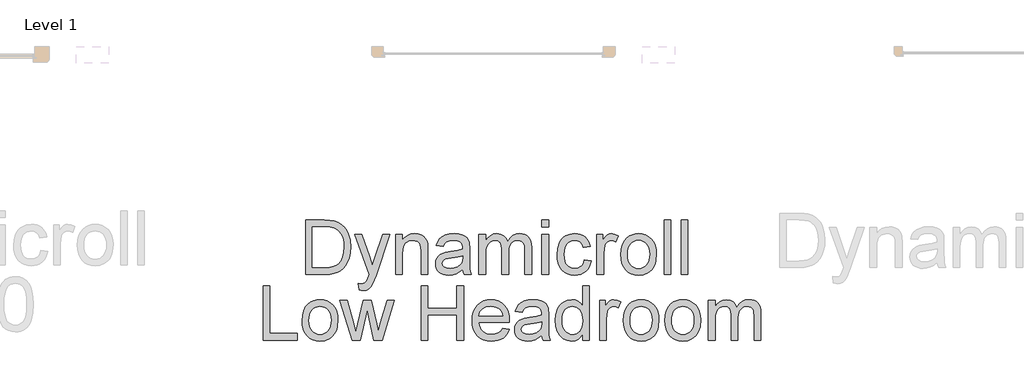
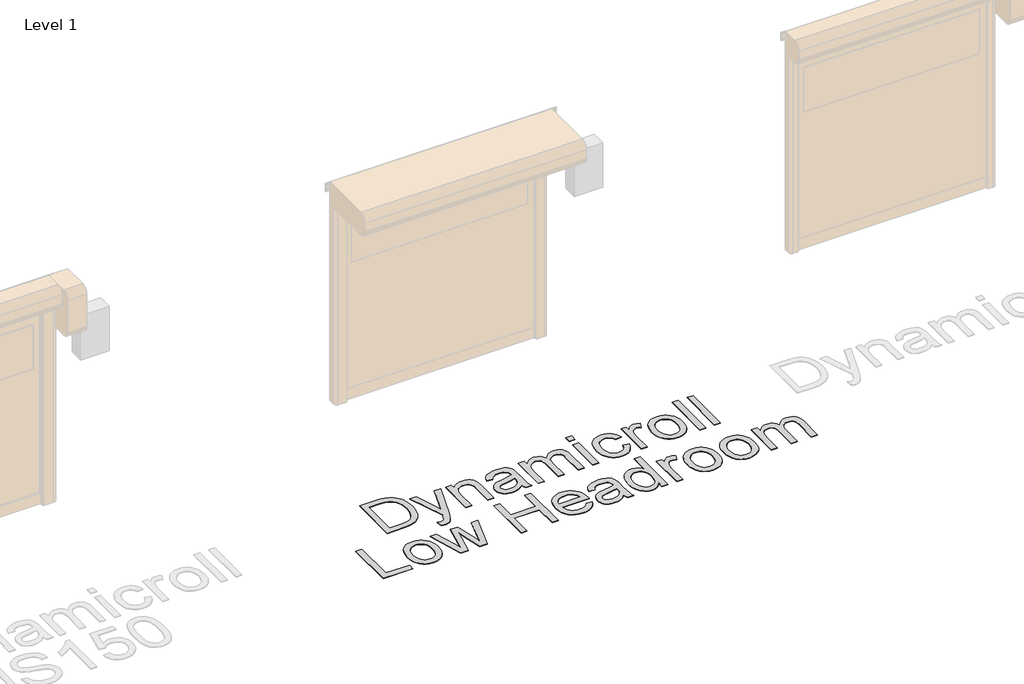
# One storey, part 10 of 17: 1 proxy.
"""IFC4 building model written with IfcOpenShell, lengths in millimetres."""

import ifcopenshell
import ifcopenshell.guid

model = None  # the IFC model being written
_history = None  # IfcOwnerHistory: only IFC2X3 demands one
_inside = {}  # id of a spatial element -> (the spatial element, [elements in it])
_under = {}  # id of a project, library or spatial element -> (it, [spatial elements below it])
_declared = {}  # id of a project -> (the project, [libraries it declares])
_typed = {}  # id of a type object -> (the type object, [elements of that type])
_made_of = {}  # id of a material, layer set ... -> (it, [elements and type objects made of it])


def new_model(schema):
    """Start an empty IFC model of exactly this schema.

    Asked for "IFC4X3", IfcOpenShell would pick the latest addendum, in which some entities
    have other attributes; the version numbers below select the first issue.
    IFC2X3 requires an IfcOwnerHistory on every rooted entity: one is made here for all.
    """
    global model, _history
    if schema == "IFC4X3":
        model = ifcopenshell.file(schema_version=(4, 3, 0, 0))
    else:
        model = ifcopenshell.file(schema=schema)
    _inside.clear()
    _under.clear()
    _declared.clear()
    _typed.clear()
    _made_of.clear()
    _history = None
    if model.schema == "IFC2X3":
        org = make("IfcOrganization", Name="unknown")
        user = make(
            "IfcPersonAndOrganization",
            ThePerson=make("IfcPerson", FamilyName="unknown"),
            TheOrganization=org,
        )
        app = make(
            "IfcApplication",
            ApplicationDeveloper=org,
            Version="unknown",
            ApplicationFullName="unknown",
            ApplicationIdentifier="unknown",
        )
        _history = make(
            "IfcOwnerHistory",
            OwningUser=user,
            OwningApplication=app,
            ChangeAction="ADDED",
            CreationDate=0,
        )
    return model


def make(cls, **values):
    """One entity of the class cls with the attributes given. An attribute that is None is left unset."""
    return model.create_entity(
        cls, **{name: value for name, value in values.items() if value is not None}
    )


def rooted(cls, **values):
    """An entity with a GlobalId (a new one), such as an element, a storey or a relation."""
    return make(cls, GlobalId=ifcopenshell.guid.new(), OwnerHistory=_history, **values)


def si_unit(unit_type, name, prefix=None):
    """IfcSIUnit, for example si_unit("LENGTHUNIT", "METRE", prefix="MILLI")."""
    return make("IfcSIUnit", UnitType=unit_type, Prefix=prefix, Name=name)


def assignment(units):
    """IfcUnitAssignment: the units of a project."""
    return None if units is None else make("IfcUnitAssignment", Units=units)


def point(xyz):
    """IfcCartesianPoint."""
    return None if xyz is None else make("IfcCartesianPoint", Coordinates=xyz)


def direction(xyz):
    """IfcDirection."""
    return None if xyz is None else make("IfcDirection", DirectionRatios=xyz)


def frame(location, z_axis=None, x_axis=None):
    """IfcAxis2Placement3D, a coordinate frame: its origin and axes. An axis left out is left unset."""
    return make(
        "IfcAxis2Placement3D",
        Location=point(location),
        Axis=direction(z_axis),
        RefDirection=direction(x_axis),
    )


def origin():
    """The frame at (0, 0, 0) with its axes left unset."""
    return frame((0.0, 0.0, 0.0))


def origin_with_axes():
    """The frame at (0, 0, 0) with the z axis (0, 0, 1) and the x axis (1, 0, 0) written out."""
    return frame((0.0, 0.0, 0.0), z_axis=(0.0, 0.0, 1.0), x_axis=(1.0, 0.0, 0.0))


def place(relative_to, where):
    """IfcLocalPlacement: puts the frame where relative to a parent placement (None: the world)."""
    return make(
        "IfcLocalPlacement", PlacementRelTo=relative_to, RelativePlacement=where
    )


def context(
    kind, dimensions, precision=None, world=None, true_north=None, identifier=None
):
    """IfcGeometricRepresentationContext, for example the 3D "Model" context."""
    return make(
        "IfcGeometricRepresentationContext",
        ContextIdentifier=identifier,
        ContextType=kind,
        CoordinateSpaceDimension=dimensions,
        Precision=precision,
        WorldCoordinateSystem=world,
        TrueNorth=true_north,
    )


def project(units=None, contexts=None):
    """IfcProject with its units and contexts."""
    return rooted(
        "IfcProject",
        Name="project",
        RepresentationContexts=contexts,
        UnitsInContext=assignment(units),
    )


def spatial(cls, under=None, at=None, **own):
    """A site, building, storey or space (cls), placed at a placement, below another one or the project."""
    s = rooted(cls, ObjectPlacement=at, **own)
    if under is not None:
        _under.setdefault(under.id(), (under, []))[1].append(s)
    return s


def polyline(points):
    """IfcPolyline through the points."""
    return make("IfcPolyline", Points=[point(p) for p in points])


def outline(outer, holes=None, kind="AREA"):
    """IfcArbitraryClosedProfileDef: a profile drawn as a closed curve; with holes, ...WithVoids."""
    if holes is None:
        return make("IfcArbitraryClosedProfileDef", ProfileType=kind, OuterCurve=outer)
    return make(
        "IfcArbitraryProfileDefWithVoids",
        ProfileType=kind,
        OuterCurve=outer,
        InnerCurves=holes,
    )


def extrude(swept, where, along, depth):
    """IfcExtrudedAreaSolid: the profile swept, set in the frame where, extruded along a direction by depth."""
    return make(
        "IfcExtrudedAreaSolid",
        SweptArea=swept,
        Position=where,
        ExtrudedDirection=direction(along),
        Depth=depth,
    )


def shape(context_of_items, identifier, shape_type, items):
    """IfcShapeRepresentation: the items that make up one representation, for example the "Body"."""
    return make(
        "IfcShapeRepresentation",
        ContextOfItems=context_of_items,
        RepresentationIdentifier=identifier,
        RepresentationType=shape_type,
        Items=items,
    )


def made_of(thing, what):
    """Note that an element or type object is made of a material, layer set ...; save() writes the relation."""
    if what is not None:
        _made_of.setdefault(what.id(), (what, []))[1].append(thing)
    return thing


def element(
    cls,
    number,
    at=None,
    inside=None,
    cuts=None,
    type_object=None,
    material=None,
    context=None,
    identifier="Body",
    shape_type=None,
    held_by="IfcProductDefinitionShape",
    body=None,
    shapes=None,
    **own,
):
    """One element of the class cls, such as IfcWall. Its Tag is "e" and its number.

    at: its placement. inside: the storey or other place that contains it. cuts: it is an
    opening in that element (IfcRelVoidsElement). A single representation is given by context,
    identifier, shape_type and body (its items); several are given by shapes. held_by: the class
    of the entity that holds the representations. save() writes the other relations.
    """
    e = rooted(cls, Tag="e%d" % number, ObjectPlacement=at, **own)
    if body is not None:
        shapes = [shape(context, identifier, shape_type, body)]
    if shapes is not None:
        e.Representation = make(held_by, Representations=shapes)
    if inside is not None:
        _inside.setdefault(inside.id(), (inside, []))[1].append(e)
    if cuts is not None:
        rooted(
            "IfcRelVoidsElement", RelatingBuildingElement=cuts, RelatedOpeningElement=e
        )
    if type_object is not None:
        _typed.setdefault(type_object.id(), (type_object, []))[1].append(e)
    return made_of(e, material)


def aggregate(whole, parts):
    """IfcRelAggregates: a whole, such as a stair, and the parts it consists of."""
    return rooted("IfcRelAggregates", RelatingObject=whole, RelatedObjects=parts)


def save(model, path):
    """Write the relations noted so far, then the file.

    IfcRelAggregates (storeys below a building ...), IfcRelContainedInSpatialStructure (elements
    in a storey), IfcRelDefinesByType, IfcRelAssociatesMaterial and IfcRelDeclares: one each for
    every whole, place, type object, material and project.
    """
    for whole, parts in _under.values():
        aggregate(whole, parts)
    for where, things in _inside.values():
        rooted(
            "IfcRelContainedInSpatialStructure",
            RelatedElements=things,
            RelatingStructure=where,
        )
    for kind, things in _typed.values():
        rooted("IfcRelDefinesByType", RelatedObjects=things, RelatingType=kind)
    for what, things in _made_of.values():
        rooted("IfcRelAssociatesMaterial", RelatedObjects=things, RelatingMaterial=what)
    for by, libraries in _declared.values():
        rooted("IfcRelDeclares", RelatingContext=by, RelatedDefinitions=libraries)
    model.write(path)


model = new_model("IFC4")

# Units and contexts
model_context = context("Model", 3, world=origin())
ifc_project = project(units=[si_unit("LENGTHUNIT", "METRE", prefix="MILLI")], contexts=[model_context])

# Site, building, storey
site = spatial("IfcSite", under=ifc_project)
building = spatial("IfcBuilding", under=site)
storey = spatial("IfcBuildingStorey", under=building, Name="Level 1", Elevation=0.0)

# Proxy
placement = place(None, origin())
element("IfcBuildingElementProxy", 1, Name="500mm", ObjectType="500mm", at=placement, inside=storey, context=model_context, shape_type="SweptSolid", body=[
    extrude(outline(polyline([(15153.8603048, 19116.7358376), (15153.8603048, 19619.0173884), (15327.1327245, 19619.0173884), (15378.9121153, 19617.2086352), (15416.773304, 19611.7823758), (15456.8111278, 19597.8335168), (15490.5949577, 19575.8525676), (15509.2113195, 19557.8876635), (15525.3291494, 19537.5928401), (15538.9484474, 19514.9680974), (15550.0692136, 19490.0134354), (15564.8764639, 19434.0340585), (15569.812214, 19370.5744143), (15566.4706192, 19316.6643736), (15556.4458348, 19269.2229246), (15541.178732, 19228.8325473), (15522.1101819, 19196.0757213), (15500.1598896, 19170.2166827), (15476.2475599, 19150.5196675), (15448.794366, 19135.9116866), (15416.221481, 19125.3197509), (15378.4675912, 19118.8818159), (15335.4713831, 19116.7358376), (15153.8603048, 19116.7358376)]), holes=[polyline([(15216.6454986, 19179.5210315), (15327.7458612, 19179.5210315), (15373.7004537, 19181.7896371), (15408.5572728, 19188.595454), (15434.8608354, 19199.5399434), (15455.1556588, 19214.2245664), (15476.9679955, 19241.4018488), (15493.3540727, 19276.5805645), (15503.6087833, 19319.9139979), (15507.0270201, 19371.555433), (15505.3523906, 19408.0064073), (15500.3285022, 19439.9814841), (15491.9553547, 19467.4806632), (15480.2329482, 19490.5039447), (15466.1116445, 19509.5724948), (15450.5418055, 19525.2074796), (15433.5234311, 19537.4088991), (15415.0565214, 19546.1767533), (15378.9427722, 19553.7183342), (15326.0290785, 19556.2321945), (15216.6454986, 19556.2321945), (15216.6454986, 19179.5210315)])]), origin_with_axes(), (0.0, 0.0, 1.0), 5.0),
    extrude(outline(polyline([(15648.2937063, 18975.4691515), (15640.4455571, 19035.924426), (15672.3286633, 19030.4061961), (15689.0979509, 19032.1383072), (15702.1271049, 19037.3346404), (15712.2745166, 19045.6273137), (15720.3985773, 19056.6484451), (15737.5664038, 19102.8789492), (15742.4714971, 19118.0847383), (15609.0529601, 19485.5988515), (15675.2717193, 19485.5988515), (15746.0276897, 19280.8112075), (15770.6757834, 19198.8961499), (15795.323877, 19271.2462756), (15868.0418847, 19485.5988515), (15933.7701346, 19485.5988515), (15805.3793182, 19107.9066698), (15772.024684, 19025.9916122), (15754.9488281, 18999.8413337), (15735.6043665, 18981.7231454), (15713.1329079, 18971.1465381), (15686.6760611, 18967.6210023), (15668.4965592, 18969.5830396), (15648.2937063, 18975.4691515)])), origin_with_axes(), (0.0, 0.0, 1.0), 5.0),
    extrude(outline(polyline([(15985.7641232, 19116.7358376), (15985.7641232, 19485.5988515), (16048.549317, 19485.5988515), (16048.549317, 19434.0953721), (16070.3616537, 19460.0617096), (16096.5579174, 19478.6090936), (16127.1381083, 19489.7375239), (16162.1022262, 19493.4470007), (16193.0502991, 19490.4579595), (16221.3925411, 19481.4908359), (16245.0289593, 19467.6646042), (16261.8595606, 19450.0982389), (16273.2792309, 19428.8377253), (16280.682856, 19403.9290485), (16283.993794, 19343.2285193), (16283.993794, 19116.7358376), (16221.2086001, 19116.7358376), (16221.2086001, 19334.7672335), (16219.399847, 19367.2328195), (16213.9735875, 19390.3174147), (16203.9641316, 19406.8567761), (16188.4057889, 19419.6866607), (16168.4635191, 19427.9180203), (16145.3022818, 19430.6618069), (16126.2375638, 19429.121301), (16108.5294107, 19424.4997834), (16092.1778224, 19416.7972542), (16077.182799, 19406.0137132), (16064.6556506, 19390.9228872), (16055.7076875, 19370.2985028), (16050.3389097, 19344.1405601), (16048.549317, 19312.4490591), (16048.549317, 19116.7358376), (15985.7641232, 19116.7358376)])), origin_with_axes(), (0.0, 0.0, 1.0), 5.0),
    extrude(outline(polyline([(16605.7679124, 19163.824733), (16575.7702014, 19138.1036502), (16544.8834422, 19121.2730489), (16512.4025277, 19111.9840285), (16477.6223508, 19108.8876884), (16449.6671512, 19110.750091), (16425.1531812, 19116.3372988), (16404.0804407, 19125.6493118), (16386.4489296, 19138.68613), (16372.5268954, 19154.6200189), (16362.5825852, 19172.6232441), (16356.6159991, 19192.6958054), (16354.627137, 19214.837703), (16357.6315067, 19240.8653542), (16366.6446155, 19264.5017724), (16380.5474893, 19284.7352821), (16398.2211535, 19300.5542079), (16418.9911578, 19312.5103727), (16442.1830519, 19321.1555996), (16496.5069598, 19330.5979042), (16560.702368, 19340.530718), (16605.4000304, 19352.1803146), (16605.7679124, 19366.1598304), (16601.445299, 19394.1801757), (16588.4774586, 19412.5129618), (16575.4023194, 19420.4530815), (16559.4760947, 19426.1245956), (16519.0703889, 19430.6618069), (16481.6690527, 19427.6421088), (16455.549431, 19418.5830147), (16437.7378111, 19401.8290555), (16425.2604801, 19375.7247622), (16362.4752863, 19383.5729115), (16373.3737904, 19417.9085644), (16389.6372402, 19444.8865773), (16412.7831491, 19465.5186259), (16444.3290302, 19480.8163855), (16482.9106544, 19490.2893469), (16527.1637928, 19493.4470007), (16569.608178, 19490.6572289), (16603.2540521, 19482.2879135), (16628.6225814, 19469.7032836), (16646.2349319, 19454.2675682), (16657.9151852, 19435.1836897), (16665.487423, 19411.6545704), (16668.5531063, 19356.7175258), (16668.5531063, 19278.6039155), (16671.7414169, 19169.526904), (16676.4625691, 19142.5642194), (16684.2494047, 19116.7358376), (16621.4642109, 19116.7358376), (16611.4087697, 19138.5635027), (16605.7679124, 19163.824733)]), holes=[polyline([(16605.7679124, 19289.3951207), (16563.5841103, 19278.9411407), (16504.4777364, 19270.1426296), (16450.4603968, 19259.9645611), (16436.4042389, 19253.00546), (16425.9962441, 19243.4098713), (16419.5583092, 19231.913559), (16417.4123309, 19219.252287), (16422.0874979, 19200.5822757), (16436.112999, 19185.2845161), (16459.1822657, 19175.0757907), (16490.9887299, 19171.6728823), (16524.7112461, 19175.4283443), (16554.5096877, 19186.6947304), (16578.6672721, 19203.2954054), (16595.4672165, 19223.0537342), (16602.9168269, 19243.4098713), (16605.4000304, 19271.6141576), (16605.7679124, 19289.3951207)])]), origin_with_axes(), (0.0, 0.0, 1.0), 5.0),
    extrude(outline(polyline([(16754.8827478, 19116.7358376), (16754.8827478, 19485.5988515), (16817.6679416, 19485.5988515), (16817.6679416, 19424.8983223), (16836.5525507, 19452.7807118), (16860.8327624, 19474.6237053), (16889.6808422, 19488.7411768), (16922.2690556, 19493.4470007), (16957.1871883, 19488.6492064), (16985.1768768, 19474.2558233), (17006.0848368, 19451.2172133), (17019.7577843, 19420.4837383), (17042.6431101, 19452.4051656), (17068.7474033, 19475.2061851), (17098.070664, 19488.8867968), (17130.6128922, 19493.4470007), (17155.7476631, 19491.5501092), (17177.8090865, 19485.8594346), (17196.7971624, 19476.3749769), (17212.7118908, 19463.0967361), (17225.2926886, 19445.8714281), (17234.2789728, 19424.5457687), (17239.6707432, 19399.1197579), (17241.4680001, 19369.5933957), (17241.4680001, 19116.7358376), (17178.6828062, 19116.7358376), (17178.6828062, 19342.6153827), (17177.2266067, 19373.9313375), (17172.858008, 19395.038567), (17164.6726336, 19409.4932637), (17151.7661069, 19420.8516203), (17135.1654319, 19428.2092602), (17115.8976124, 19430.6618069), (17098.105153, 19429.0906442), (17081.8838562, 19424.3771561), (17067.2337222, 19416.5213427), (17054.1547509, 19405.5232039), (17043.3980346, 19391.0608429), (17035.7146659, 19372.8123631), (17031.1046446, 19350.7777645), (17029.5679709, 19324.9570469), (17029.5679709, 19116.7358376), (16966.782777, 19116.7358376), (16966.782777, 19349.6051406), (16963.1499423, 19385.1057531), (16952.2514382, 19410.4282971), (16943.8246412, 19419.2804576), (16933.0755892, 19425.6034294), (16904.6107198, 19430.6618069), (16880.4224786, 19427.2895552), (16858.1349611, 19417.1728004), (16839.7408613, 19400.5567969), (16827.2328735, 19377.6867996), (16820.0591746, 19345.9569775), (16817.6679416, 19302.7614999), (16817.6679416, 19116.7358376), (16754.8827478, 19116.7358376)])), origin_with_axes(), (0.0, 0.0, 1.0), 5.0),
    extrude(outline(polyline([(17335.6457908, 19556.2321945), (17335.6457908, 19619.0173884), (17398.4309847, 19619.0173884), (17398.4309847, 19556.2321945), (17335.6457908, 19556.2321945)])), origin_with_axes(), (0.0, 0.0, 1.0), 5.0),
    extrude(outline(polyline([(17335.6457908, 19116.7358376), (17335.6457908, 19485.5988515), (17398.4309847, 19485.5988515), (17398.4309847, 19116.7358376), (17335.6457908, 19116.7358376)])), origin_with_axes(), (0.0, 0.0, 1.0), 5.0),
    extrude(outline(polyline([(17728.0532524, 19250.1543746), (17790.8384462, 19242.3062253), (17784.0096367, 19212.6802284), (17773.3333946, 19186.4648041), (17758.80972, 19163.6599525), (17740.4386129, 19144.2656736), (17718.9941582, 19128.7878051), (17695.2504411, 19117.7321847), (17669.2074615, 19111.0988125), (17640.8652195, 19108.8876884), (17605.6520148, 19111.9725322), (17574.079309, 19121.2270637), (17546.1471021, 19136.6512827), (17521.8553941, 19158.2451894), (17502.1928678, 19185.6025807), (17488.1482063, 19218.3172536), (17479.7214093, 19256.389208), (17476.912477, 19299.8184439), (17481.7102713, 19355.6905219), (17496.1036544, 19404.1129895), (17506.9561733, 19425.0631027), (17520.3225524, 19443.2157799), (17536.2027919, 19458.5710211), (17554.5968916, 19471.1288263), (17595.6004057, 19487.8674571), (17640.0068282, 19493.4470007), (17667.862393, 19491.5309486), (17693.0584776, 19485.7827925), (17715.5950819, 19476.2025322), (17735.4722059, 19462.7901678), (17752.3526246, 19445.8522676), (17765.8991126, 19425.6953999), (17776.1116701, 19402.3195648), (17782.990297, 19375.7247622), (17720.2051031, 19367.876613), (17708.8160897, 19395.2684932), (17691.0811118, 19414.9041947), (17667.9811882, 19426.7224038), (17640.4973375, 19430.6618069), (17619.1640139, 19428.7227622), (17599.9230191, 19422.9056281), (17582.7743532, 19413.2104047), (17567.7180161, 19399.6370919), (17555.4591151, 19381.8714573), (17546.7027572, 19359.5992681), (17541.4489424, 19332.8205246), (17539.6976708, 19301.5352266), (17541.4106214, 19269.7785797), (17546.549473, 19242.6894357), (17555.1142257, 19220.2677946), (17567.1048795, 19202.5136562), (17581.8623124, 19189.0208176), (17598.7274026, 19179.3830757), (17617.7001501, 19173.6004306), (17638.7805549, 19171.6728823), (17671.2921262, 19176.486005), (17697.9482424, 19190.9253733), (17708.7279513, 19201.8468701), (17717.3386893, 19215.3588692), (17728.0532524, 19250.1543746)])), origin_with_axes(), (0.0, 0.0, 1.0), 5.0),
    extrude(outline(polyline([(17845.7754908, 19116.7358376), (17845.7754908, 19485.5988515), (17900.7125354, 19485.5988515), (17900.7125354, 19431.0296889), (17921.0073588, 19462.6675404), (17939.7080269, 19481.3068949), (17958.4700087, 19490.4119742), (17978.9487731, 19493.4470007), (18010.2187427, 19488.6032211), (18041.9792216, 19474.0718823), (18021.0099479, 19417.785937), (17998.9370281, 19427.4428394), (17976.8641084, 19430.6618069), (17958.1174551, 19427.5654667), (17941.3634959, 19418.2764464), (17927.8285042, 19403.4998529), (17918.7387532, 19383.9407935), (17911.1052018, 19348.8693766), (17908.5606847, 19310.6096491), (17908.5606847, 19116.7358376), (17845.7754908, 19116.7358376)])), origin_with_axes(), (0.0, 0.0, 1.0), 5.0),
    extrude(outline(polyline([(18065.5236693, 19301.1673446), (18068.9189135, 19348.9383545), (18079.1046463, 19390.1028169), (18096.0808675, 19424.6607318), (18119.8475772, 19452.6120992), (18143.7752353, 19470.4773686), (18170.1860969, 19483.2382753), (18199.0801619, 19490.8948194), (18230.4574304, 19493.4470007), (18265.0958195, 19490.3391643), (18296.4156065, 19481.015655), (18324.4167913, 19465.4764728), (18349.0993739, 19443.7216177), (18369.2447452, 19416.4868537), (18383.6342962, 19384.5079449), (18392.2680268, 19347.7848911), (18395.1459369, 19306.3176925), (18390.0569027, 19242.8887052), (18383.6956098, 19216.8533898), (18374.7897999, 19194.6041933), (18363.4506038, 19175.3861911), (18349.7891526, 19158.4444588), (18333.8054464, 19143.7789964), (18315.499485, 19131.3898038), (18274.7718824, 19114.5132173), (18230.4574304, 19108.8876884), (18195.3132036, 19111.9840285), (18163.7021767, 19121.2730489), (18135.6243499, 19136.7547495), (18111.079723, 19158.4291304), (18091.1489495, 19185.9283096), (18076.9126827, 19218.884405), (18068.3709226, 19257.2974166), (18065.5236693, 19301.1673446)]), holes=[polyline([(18128.3088631, 19301.2899719), (18130.1252805, 19270.8362405), (18135.5745325, 19244.4675321), (18144.6566193, 19222.1838466), (18157.3715407, 19203.9851842), (18172.8379129, 19189.8485521), (18190.174352, 19179.7509577), (18209.3808578, 19173.6924011), (18230.4574304, 19171.6728823), (18251.4267042, 19173.7038974), (18270.5565679, 19179.796943), (18287.8470217, 19189.9520189), (18303.2980655, 19204.1691252), (18316.0129869, 19222.5478965), (18325.0950737, 19245.1879676), (18330.5443258, 19272.0893385), (18332.3607431, 19303.2520092), (18330.5328294, 19332.7400504), (18325.0490885, 19358.4189801), (18315.9095201, 19380.2887983), (18303.1141245, 19398.349505), (18287.6055991, 19412.486137), (18270.3266417, 19422.5837314), (18251.2772521, 19428.642288), (18230.4574304, 19430.6618069), (18209.3808578, 19428.6499522), (18190.174352, 19422.6143882), (18172.8379129, 19412.5551149), (18157.3715407, 19398.4721323), (18144.6566193, 19380.3271193), (18135.5745325, 19358.0817549), (18130.1252805, 19331.7360391), (18128.3088631, 19301.2899719)])]), origin_with_axes(), (0.0, 0.0, 1.0), 5.0),
    extrude(outline(polyline([(18465.77928, 19116.7358376), (18465.77928, 19619.0173884), (18528.5644739, 19619.0173884), (18528.5644739, 19116.7358376), (18465.77928, 19116.7358376)])), origin_with_axes(), (0.0, 0.0, 1.0), 5.0),
    extrude(outline(polyline([(18622.7422646, 19116.7358376), (18622.7422646, 19619.0173884), (18685.5274585, 19619.0173884), (18685.5274585, 19116.7358376), (18622.7422646, 19116.7358376)])), origin_with_axes(), (0.0, 0.0, 1.0), 5.0),
    extrude(outline(polyline([(14761.4528433, 18506.8617484), (14761.4528433, 19009.1432992), (14824.2380371, 19009.1432992), (14824.2380371, 18569.6469423), (15075.3788125, 18569.6469423), (15075.3788125, 18506.8617484), (14761.4528433, 18506.8617484)])), origin_with_axes(), (0.0, 0.0, 1.0), 5.0),
    extrude(outline(polyline([(15122.4677079, 18691.2932553), (15125.8629521, 18739.0642652), (15136.0486848, 18780.2287277), (15153.0249061, 18814.7866426), (15176.7916158, 18842.73801), (15200.7192739, 18860.6032794), (15227.1301355, 18873.3641861), (15256.0242005, 18881.0207301), (15287.401469, 18883.5729115), (15322.0398581, 18880.465075), (15353.3596451, 18871.1415657), (15381.3608299, 18855.6023835), (15406.0434125, 18833.8475285), (15426.1887838, 18806.6127645), (15440.5783348, 18774.6338557), (15449.2120653, 18737.9108019), (15452.0899755, 18696.4436033), (15447.0009413, 18633.0146159), (15440.6396484, 18606.9793006), (15431.7338385, 18584.7301041), (15420.3946424, 18565.5121019), (15406.7331912, 18548.5703696), (15390.7494849, 18533.9049072), (15372.4435236, 18521.5157146), (15331.715921, 18504.639128), (15287.401469, 18499.0135992), (15252.2572422, 18502.1099393), (15220.6462153, 18511.3989597), (15192.5683885, 18526.8806603), (15168.0237616, 18548.5550412), (15148.0929881, 18576.0542203), (15133.8567213, 18609.0103157), (15125.3149612, 18647.4233274), (15122.4677079, 18691.2932553)]), holes=[polyline([(15185.2529017, 18691.4158827), (15187.0693191, 18660.9621513), (15192.5185711, 18634.5934428), (15201.6006579, 18612.3097574), (15214.3155793, 18594.1110949), (15229.7819515, 18579.9744629), (15247.1183906, 18569.8768685), (15266.3248964, 18563.8183119), (15287.401469, 18561.798793), (15308.3707428, 18563.8298082), (15327.5006065, 18569.9228538), (15344.7910603, 18580.0779297), (15360.2421041, 18594.2950359), (15372.9570255, 18612.6738073), (15382.0391123, 18635.3138784), (15387.4883643, 18662.2152493), (15389.3047817, 18693.37792), (15387.476868, 18722.8659611), (15381.993127, 18748.5448908), (15372.8535587, 18770.414709), (15360.0581631, 18788.4754157), (15344.5496377, 18802.6120478), (15327.2706803, 18812.7096422), (15308.2212907, 18818.7681988), (15287.401469, 18820.7877176), (15266.3248964, 18818.775863), (15247.1183906, 18812.740299), (15229.7819515, 18802.6810257), (15214.3155793, 18788.5980431), (15201.6006579, 18770.4530301), (15192.5185711, 18748.2076657), (15187.0693191, 18721.8619499), (15185.2529017, 18691.4158827)])]), origin_with_axes(), (0.0, 0.0, 1.0), 5.0),
    extrude(outline(polyline([(15583.9143571, 18506.8617484), (15471.7103486, 18875.7247622), (15536.9480891, 18875.7247622), (15600.5916743, 18660.5137951), (15619.5989107, 18583.6264581), (15635.1725818, 18657.6933664), (15685.8176698, 18875.7247622), (15760.6203422, 18875.7247622), (15811.0201755, 18658.3065031), (15824.877064, 18591.2293526), (15844.7426917, 18661.9853231), (15908.5089042, 18875.7247622), (15973.9918994, 18875.7247622), (15860.9294995, 18506.8617484), (15785.0231812, 18506.8617484), (15736.8306398, 18723.1763616), (15722.851124, 18790.621394), (15660.6790668, 18506.8617484), (15583.9143571, 18506.8617484)])), origin_with_axes(), (0.0, 0.0, 1.0), 5.0),
    extrude(outline(polyline([(16221.2086001, 18506.8617484), (16221.2086001, 19009.1432992), (16283.993794, 19009.1432992), (16283.993794, 18805.0914192), (16550.8308678, 18805.0914192), (16550.8308678, 19009.1432992), (16613.6160616, 19009.1432992), (16613.6160616, 18506.8617484), (16550.8308678, 18506.8617484), (16550.8308678, 18742.3062253), (16283.993794, 18742.3062253), (16283.993794, 18506.8617484), (16221.2086001, 18506.8617484)])), origin_with_axes(), (0.0, 0.0, 1.0), 5.0),
    extrude(outline(polyline([(16973.8951622, 18616.7358376), (17035.4540828, 18608.8876884), (17026.0156103, 18584.2319305), (17013.2738641, 18562.5039002), (16997.2288442, 18543.7035974), (16977.8805505, 18527.8310221), (16955.4282525, 18515.2233996), (16930.0712196, 18506.2179549), (16901.8094517, 18500.8146881), (16870.6429489, 18499.0135992), (16831.6857785, 18502.1214356), (16796.9745794, 18511.4449449), (16766.5093517, 18526.9841271), (16740.2900953, 18548.7389822), (16719.2058585, 18576.1040377), (16704.1456893, 18608.4738212), (16695.1095878, 18645.8483326), (16692.0975539, 18688.227572), (16695.1402446, 18732.0438505), (16704.2683166, 18770.6637958), (16719.48177, 18804.0874079), (16740.7806046, 18832.3146868), (16766.9308831, 18854.7401601), (16796.6986679, 18870.7583553), (16830.083959, 18880.3692724), (16867.0867563, 18883.5729115), (16902.8977693, 18880.3769366), (16935.2828812, 18870.7890121), (16964.242092, 18854.809138), (16989.7754017, 18832.4373141), (17010.618216, 18804.2713489), (17025.5059405, 18770.9090505), (17034.4385752, 18732.3504188), (17037.4161201, 18688.595454), (17037.0482381, 18671.6728823), (16754.8827478, 18671.6728823), (16758.5194146, 18646.6185855), (16765.7505951, 18624.6759574), (16776.5762892, 18605.8449977), (16790.996497, 18590.1257067), (16808.2141408, 18577.7326819), (16827.4321429, 18568.8805214), (16848.6505034, 18563.5692251), (16871.8692223, 18561.798793), (16905.2851701, 18565.0790742), (16933.4281428, 18574.9199175), (16956.2981401, 18591.9344598), (16973.8951622, 18616.7358376)]), holes=[polyline([(16754.8827478, 18734.4580761), (16974.6309262, 18734.4580761), (16966.1389835, 18767.6287693), (16949.4923232, 18791.357158), (16932.370482, 18804.2330279), (16912.8880647, 18813.4300777), (16891.0450713, 18818.9483077), (16866.8415017, 18820.7877176), (16824.5197438, 18814.9169341), (16806.1064835, 18807.5784547), (16789.524969, 18797.3045836), (16775.610599, 18784.5705016), (16765.1987721, 18769.8513897), (16758.2894883, 18753.1472479), (16754.8827478, 18734.4580761)])]), origin_with_axes(), (0.0, 0.0, 1.0), 5.0),
    extrude(outline(polyline([(17335.6457908, 18553.9506438), (17305.6480798, 18528.229561), (17274.7613206, 18511.3989597), (17242.2804061, 18502.1099393), (17207.5002292, 18499.0135992), (17179.5450297, 18500.8760018), (17155.0310596, 18506.4632096), (17133.9583191, 18515.7752226), (17116.326808, 18528.8120408), (17102.4047738, 18544.7459297), (17092.4604636, 18562.7491549), (17086.4938775, 18582.8217162), (17084.5050155, 18604.9636138), (17087.5093851, 18630.991265), (17096.522494, 18654.6276831), (17110.4253677, 18674.8611929), (17128.0990319, 18690.6801187), (17148.8690362, 18702.6362835), (17172.0609303, 18711.2815104), (17226.3848383, 18720.7238149), (17290.5802464, 18730.6566288), (17335.2779088, 18742.3062253), (17335.6457908, 18756.2857411), (17331.3231774, 18784.3060864), (17318.3553371, 18802.6388725), (17305.2801978, 18810.5789923), (17289.3539731, 18816.2505064), (17248.9482673, 18820.7877176), (17211.5469311, 18817.7680196), (17185.4273095, 18808.7089255), (17167.6156895, 18791.9549663), (17155.1383585, 18765.850673), (17092.3531647, 18773.6988223), (17103.2516688, 18808.0344751), (17119.5151187, 18835.0124881), (17142.6610275, 18855.6445367), (17174.2069086, 18870.9422963), (17212.7885329, 18880.4152577), (17257.0416712, 18883.5729115), (17299.4860564, 18880.7831397), (17333.1319305, 18872.4138243), (17358.5004598, 18859.8291944), (17376.1128103, 18844.393479), (17387.7930637, 18825.3096005), (17395.3653014, 18801.7804812), (17398.4309847, 18746.8434366), (17398.4309847, 18668.7298263), (17401.6192953, 18559.6528147), (17406.3404476, 18532.6901302), (17414.1272831, 18506.8617484), (17351.3420893, 18506.8617484), (17341.2866481, 18528.6894135), (17335.6457908, 18553.9506438)]), holes=[polyline([(17335.6457908, 18679.5210315), (17293.4619887, 18669.0670515), (17234.3556148, 18660.2685404), (17180.3382752, 18650.0904719), (17166.2821173, 18643.1313708), (17155.8741225, 18633.5357821), (17149.4361876, 18622.0394697), (17147.2902093, 18609.3781977), (17151.9653763, 18590.7081865), (17165.9908774, 18575.4104269), (17189.0601442, 18565.2017015), (17220.8666083, 18561.798793), (17254.5891246, 18565.5542551), (17284.3875662, 18576.8206412), (17308.5451505, 18593.4213162), (17325.345095, 18613.179645), (17332.7947054, 18633.5357821), (17335.2779088, 18661.7400684), (17335.6457908, 18679.5210315)])]), origin_with_axes(), (0.0, 0.0, 1.0), 5.0),
    extrude(outline(polyline([(17712.3569539, 18506.8617484), (17712.3569539, 18566.0907496), (17693.5719795, 18536.7444963), (17670.8169453, 18515.7828868), (17644.0918512, 18503.2059211), (17613.3966972, 18499.0135992), (17572.8070504, 18505.0836521), (17535.6509689, 18523.2938109), (17504.1970583, 18552.3718169), (17480.7139243, 18591.0454116), (17466.090615, 18637.7510966), (17461.2161785, 18690.9253733), (17465.7074046, 18743.4405281), (17479.1810826, 18790.8666487), (17489.2825091, 18811.9968708), (17501.6218843, 18830.5059337), (17516.1992084, 18846.3938373), (17533.0144813, 18859.6605818), (17570.9829688, 18877.5948291), (17613.1514425, 18883.5729115), (17643.8695891, 18879.2962833), (17671.0315431, 18866.4663987), (17694.0548246, 18846.8000404), (17712.3569539, 18822.013991), (17712.3569539, 19009.1432992), (17775.1421477, 19009.1432992), (17775.1421477, 18506.8617484), (17712.3569539, 18506.8617484)]), holes=[polyline([(17524.0013724, 18691.170628), (17525.7718045, 18660.7245608), (17531.0831008, 18634.378845), (17539.9352613, 18612.1334806), (17552.328286, 18593.9884676), (17567.1278721, 18579.905485), (17583.1997168, 18569.8462117), (17600.54382, 18563.8106477), (17619.1601818, 18561.798793), (17637.864682, 18563.7186772), (17655.1053184, 18569.4783297), (17670.882091, 18579.0777505), (17685.1949999, 18592.5169396), (17697.0783548, 18609.903196), (17705.5664654, 18631.3438185), (17710.6593318, 18656.8388072), (17712.3569539, 18686.3881621), (17710.6286749, 18718.7847703), (17705.4438381, 18746.5675251), (17696.8024433, 18769.7364266), (17684.7044906, 18788.2914747), (17670.0773492, 18802.508581), (17653.8483883, 18812.6636569), (17636.0176078, 18818.7567025), (17616.5850078, 18820.7877176), (17597.600764, 18818.8371766), (17580.2566608, 18812.9855537), (17564.5526981, 18803.2328487), (17550.488876, 18789.5790617), (17538.9005932, 18771.7252886), (17530.6232483, 18749.3726253), (17525.6568413, 18722.5210718), (17524.0013724, 18691.170628)])]), origin_with_axes(), (0.0, 0.0, 1.0), 5.0),
    extrude(outline(polyline([(17869.3199385, 18506.8617484), (17869.3199385, 18875.7247622), (17924.2569831, 18875.7247622), (17924.2569831, 18821.1555996), (17944.5518065, 18852.7934512), (17963.2524746, 18871.4328056), (17982.0144564, 18880.537885), (18002.4932208, 18883.5729115), (18033.7631904, 18878.7291319), (18065.5236693, 18864.1977931), (18044.5543955, 18807.9118478), (18022.4814758, 18817.5687502), (18000.4085561, 18820.7877176), (17981.6619028, 18817.6913775), (17964.9079436, 18808.4023571), (17951.3729519, 18793.6257637), (17942.2832009, 18774.0667042), (17934.6496495, 18738.9952874), (17932.1051324, 18700.7355599), (17932.1051324, 18506.8617484), (17869.3199385, 18506.8617484)])), origin_with_axes(), (0.0, 0.0, 1.0), 5.0),
    extrude(outline(polyline([(18089.068117, 18691.2932553), (18092.4633612, 18739.0642652), (18102.649094, 18780.2287277), (18119.6253152, 18814.7866426), (18143.3920249, 18842.73801), (18167.319683, 18860.6032794), (18193.7305446, 18873.3641861), (18222.6246096, 18881.0207301), (18254.0018781, 18883.5729115), (18288.6402672, 18880.465075), (18319.9600542, 18871.1415657), (18347.961239, 18855.6023835), (18372.6438216, 18833.8475285), (18392.7891929, 18806.6127645), (18407.1787439, 18774.6338557), (18415.8124744, 18737.9108019), (18418.6903846, 18696.4436033), (18413.6013504, 18633.0146159), (18407.2400575, 18606.9793006), (18398.3342476, 18584.7301041), (18386.9950515, 18565.5121019), (18373.3336003, 18548.5703696), (18357.349894, 18533.9049072), (18339.0439327, 18521.5157146), (18298.3163301, 18504.639128), (18254.0018781, 18499.0135992), (18218.8576513, 18502.1099393), (18187.2466244, 18511.3989597), (18159.1687976, 18526.8806603), (18134.6241707, 18548.5550412), (18114.6933972, 18576.0542203), (18100.4571304, 18609.0103157), (18091.9153703, 18647.4233274), (18089.068117, 18691.2932553)]), holes=[polyline([(18151.8533108, 18691.4158827), (18153.6697282, 18660.9621513), (18159.1189802, 18634.5934428), (18168.201067, 18612.3097574), (18180.9159884, 18594.1110949), (18196.3823606, 18579.9744629), (18213.7187997, 18569.8768685), (18232.9253055, 18563.8183119), (18254.0018781, 18561.798793), (18274.9711519, 18563.8298082), (18294.1010156, 18569.9228538), (18311.3914694, 18580.0779297), (18326.8425132, 18594.2950359), (18339.5574346, 18612.6738073), (18348.6395214, 18635.3138784), (18354.0887734, 18662.2152493), (18355.9051908, 18693.37792), (18354.0772771, 18722.8659611), (18348.5935361, 18748.5448908), (18339.4539678, 18770.414709), (18326.6585722, 18788.4754157), (18311.1500468, 18802.6120478), (18293.8710894, 18812.7096422), (18274.8216998, 18818.7681988), (18254.0018781, 18820.7877176), (18232.9253055, 18818.775863), (18213.7187997, 18812.740299), (18196.3823606, 18802.6810257), (18180.9159884, 18788.5980431), (18168.201067, 18770.4530301), (18159.1189802, 18748.2076657), (18153.6697282, 18721.8619499), (18151.8533108, 18691.4158827)])]), origin_with_axes(), (0.0, 0.0, 1.0), 5.0),
    extrude(outline(polyline([(18473.6274293, 18691.2932553), (18477.0226735, 18739.0642652), (18487.2084062, 18780.2287277), (18504.1846275, 18814.7866426), (18527.9513372, 18842.73801), (18551.8789953, 18860.6032794), (18578.2898569, 18873.3641861), (18607.1839219, 18881.0207301), (18638.5611904, 18883.5729115), (18673.1995795, 18880.465075), (18704.5193665, 18871.1415657), (18732.5205513, 18855.6023835), (18757.2031339, 18833.8475285), (18777.3485052, 18806.6127645), (18791.7380562, 18774.6338557), (18800.3717867, 18737.9108019), (18803.2496969, 18696.4436033), (18798.1606627, 18633.0146159), (18791.7993698, 18606.9793006), (18782.8935599, 18584.7301041), (18771.5543638, 18565.5121019), (18757.8929126, 18548.5703696), (18741.9092063, 18533.9049072), (18723.603245, 18521.5157146), (18682.8756424, 18504.639128), (18638.5611904, 18499.0135992), (18603.4169636, 18502.1099393), (18571.8059367, 18511.3989597), (18543.7281099, 18526.8806603), (18519.183483, 18548.5550412), (18499.2527095, 18576.0542203), (18485.0164427, 18609.0103157), (18476.4746826, 18647.4233274), (18473.6274293, 18691.2932553)]), holes=[polyline([(18536.4126231, 18691.4158827), (18538.2290404, 18660.9621513), (18543.6782925, 18634.5934428), (18552.7603793, 18612.3097574), (18565.4753007, 18594.1110949), (18580.9416729, 18579.9744629), (18598.278112, 18569.8768685), (18617.4846178, 18563.8183119), (18638.5611904, 18561.798793), (18659.5304641, 18563.8298082), (18678.6603279, 18569.9228538), (18695.9507817, 18580.0779297), (18711.4018255, 18594.2950359), (18724.1167469, 18612.6738073), (18733.1988337, 18635.3138784), (18738.6480857, 18662.2152493), (18740.4645031, 18693.37792), (18738.6365894, 18722.8659611), (18733.1528484, 18748.5448908), (18724.0132801, 18770.414709), (18711.2178845, 18788.4754157), (18695.7093591, 18802.6120478), (18678.4304017, 18812.7096422), (18659.3810121, 18818.7681988), (18638.5611904, 18820.7877176), (18617.4846178, 18818.775863), (18598.278112, 18812.740299), (18580.9416729, 18802.6810257), (18565.4753007, 18788.5980431), (18552.7603793, 18770.4530301), (18543.6782925, 18748.2076657), (18538.2290404, 18721.8619499), (18536.4126231, 18691.4158827)])]), origin_with_axes(), (0.0, 0.0, 1.0), 5.0),
    extrude(outline(polyline([(18873.88304, 18506.8617484), (18873.88304, 18875.7247622), (18936.6682338, 18875.7247622), (18936.6682338, 18815.024233), (18955.5528429, 18842.9066226), (18979.8330546, 18864.7496161), (19008.6811344, 18878.8670876), (19041.2693478, 18883.5729115), (19076.1874805, 18878.7751171), (19104.177169, 18864.3817341), (19125.085129, 18841.3431241), (19138.7580765, 18810.6096491), (19161.6434023, 18842.5310764), (19187.7476956, 18865.3320959), (19217.0709563, 18879.0127076), (19249.6131844, 18883.5729115), (19274.7479553, 18881.6760199), (19296.8093787, 18875.9853453), (19315.7974546, 18866.5008876), (19331.712183, 18853.2226469), (19344.2929808, 18835.9973389), (19353.279265, 18814.6716795), (19358.6710355, 18789.2456687), (19360.4682923, 18759.7193064), (19360.4682923, 18506.8617484), (19297.6830984, 18506.8617484), (19297.6830984, 18732.7412935), (19296.2268989, 18764.0572483), (19291.8583002, 18785.1644778), (19283.6729258, 18799.6191745), (19270.7663991, 18810.9775311), (19254.1657241, 18818.335171), (19234.8979046, 18820.7877176), (19217.1054452, 18819.2165549), (19200.8841485, 18814.5030669), (19186.2340144, 18806.6472534), (19173.1550431, 18795.6491146), (19162.3983268, 18781.1867537), (19154.7149581, 18762.9382739), (19150.1049368, 18740.9036752), (19148.5682631, 18715.0829577), (19148.5682631, 18506.8617484), (19085.7830692, 18506.8617484), (19085.7830692, 18739.7310514), (19082.1502345, 18775.2316639), (19071.2517304, 18800.5542079), (19062.8249335, 18809.4063684), (19052.0758814, 18815.7293402), (19023.611012, 18820.7877176), (18999.4227709, 18817.415466), (18977.1352533, 18807.2987111), (18958.7411536, 18790.6827077), (18946.2331657, 18767.8127103), (18939.0594668, 18736.0828882), (18936.6682338, 18692.8874106), (18936.6682338, 18506.8617484), (18873.88304, 18506.8617484)])), origin_with_axes(), (0.0, 0.0, 1.0), 5.0),
])

save(model, "model.ifc")
